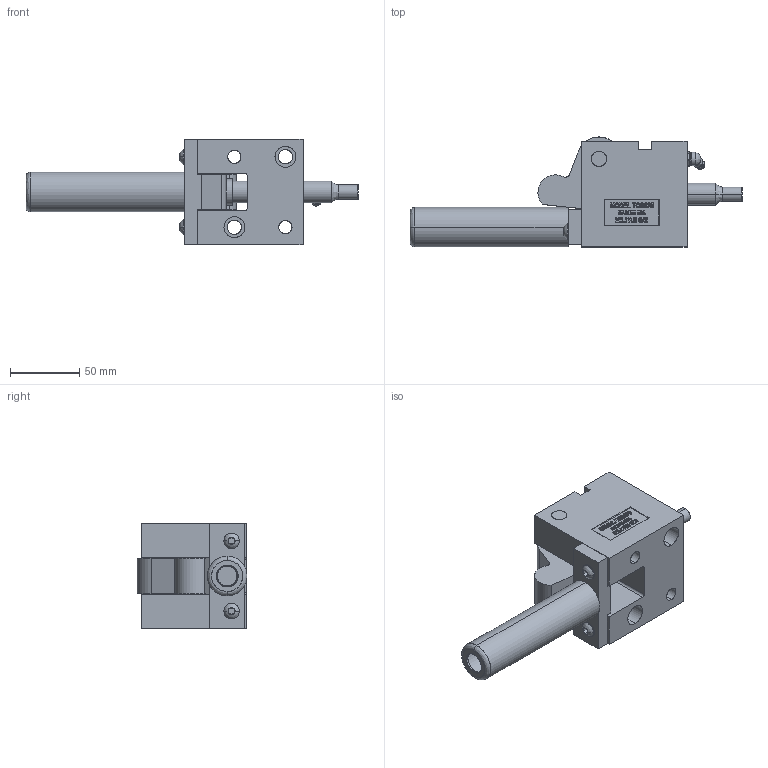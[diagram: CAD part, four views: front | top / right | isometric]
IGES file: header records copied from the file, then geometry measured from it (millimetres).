
Start section: SolidWorks IGES file using analytic representation for surfaces
Global section: file name: Y:\JIM'S INCH CAM UNITS\TOS62545\CLOSED\TOS62545-C.IGS; native system: SolidWorks 2006 by SolidWorks Corporation; preprocessor: SolidWorks 2006 by SolidWorks Corporation; author: Jim; date: 090210.173933; units: inch
Bounding box: 239.57 x 79.37 x 76.2 mm (x, y, z)
Surface area: 97819.9 mm2 (no closed solid volume)
Topology: 0 solids, 0 shells, 589 faces, 7137 edges, 7133 vertices
Faces by surface type: bspline 475, revolution 114
